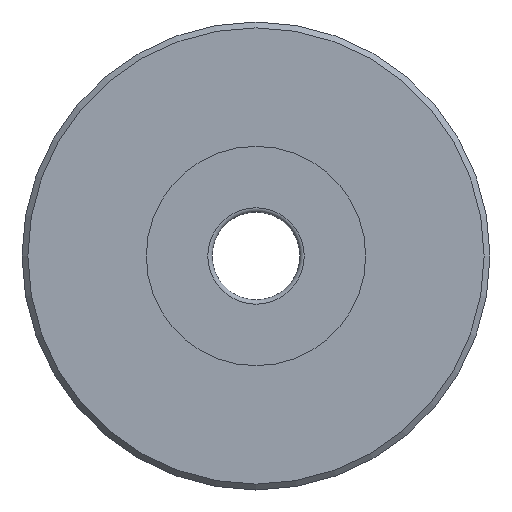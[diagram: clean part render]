
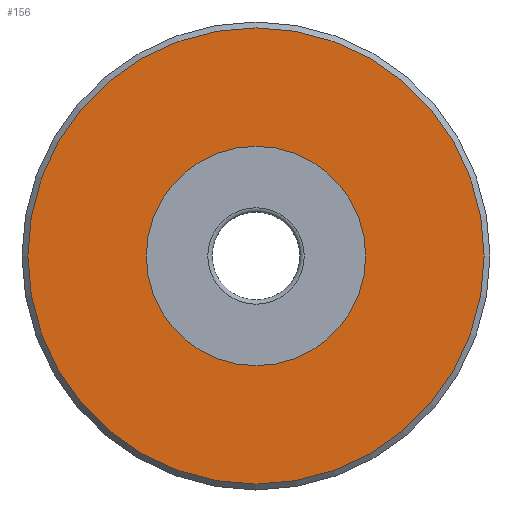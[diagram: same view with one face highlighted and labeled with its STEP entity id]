
A CAD part, left-side view. The second image highlights one B-rep face of the part: STEP entity #156.
In plain terms, the highlighted planar face has unit normal (-1, 0, 0).
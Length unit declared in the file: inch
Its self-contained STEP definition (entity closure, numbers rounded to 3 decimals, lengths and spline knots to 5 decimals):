
#129=CARTESIAN_POINT('',(11.,23.8,0.));
#130=VERTEX_POINT('',#129);
#131=CARTESIAN_POINT('',(11.,16.,0.));
#132=DIRECTION('',(-1.,0.,0.));
#133=DIRECTION('',(0.,1.,0.));
#134=AXIS2_PLACEMENT_3D('',#131,#132,#133);
#135=CIRCLE('',#134,7.8);
#136=EDGE_CURVE('',#130,#130,#135,.T.);
#137=ORIENTED_EDGE('',*,*,#136,.T.);
#138=EDGE_LOOP('',(#137));
#139=FACE_OUTER_BOUND('',#138,.T.);
#140=CARTESIAN_POINT('',(11.,19.75,0.));
#141=VERTEX_POINT('',#140);
#142=CARTESIAN_POINT('',(11.,16.,0.));
#143=DIRECTION('',(-1.,0.,0.));
#144=DIRECTION('',(0.,1.,0.));
#145=AXIS2_PLACEMENT_3D('',#142,#143,#144);
#146=CIRCLE('',#145,3.75);
#147=EDGE_CURVE('',#141,#141,#146,.T.);
#148=ORIENTED_EDGE('',*,*,#147,.F.);
#149=EDGE_LOOP('',(#148));
#150=FACE_BOUND('',#149,.T.);
#151=CARTESIAN_POINT('',(11.,21.775,0.));
#152=DIRECTION('',(-1.,0.,0.));
#153=DIRECTION('',(0.,1.,0.));
#154=AXIS2_PLACEMENT_3D('',#151,#152,#153);
#155=PLANE('',#154);
#156=ADVANCED_FACE('',(#139,#150),#155,.T.);
